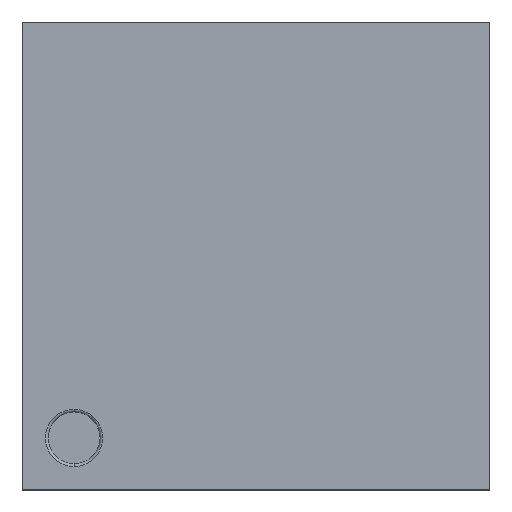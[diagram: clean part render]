
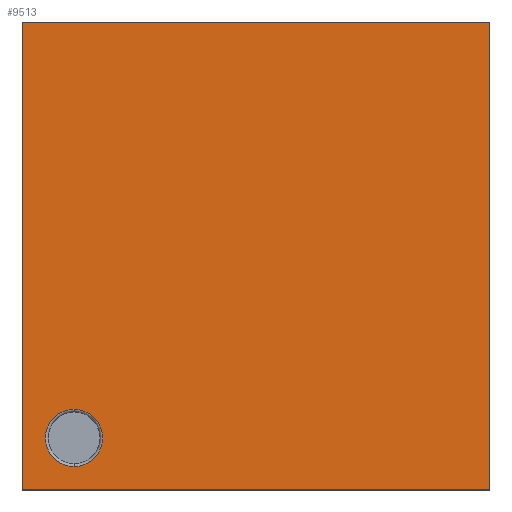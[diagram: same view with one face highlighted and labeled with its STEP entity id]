
A CAD part, top view. The second image highlights one B-rep face of the part: STEP entity #9513.
In plain terms, the highlighted planar face has unit normal (0, 0, 1).
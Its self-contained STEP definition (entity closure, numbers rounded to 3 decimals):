
#9324 = CARTESIAN_POINT ( 'NONE',  ( -3.5, -2.95, 1.23 ) ) ;
#9325 = VERTEX_POINT ( 'NONE', #9324 ) ;
#9326 = CARTESIAN_POINT ( 'NONE',  ( -3.5, -4.05, 1.23 ) ) ;
#9327 = VERTEX_POINT ( 'NONE', #9326 ) ;
#9328 = CARTESIAN_POINT ( 'NONE',  ( -3.5, -3.5, 1.23 ) ) ;
#9329 = DIRECTION ( 'NONE',  ( 0., 0., -1. ) ) ;
#9330 = DIRECTION ( 'NONE',  ( 0., -1., 0. ) ) ;
#9331 = AXIS2_PLACEMENT_3D ( 'NONE', #9328, #9329, #9330 ) ;
#9332 = CIRCLE ( 'NONE', #9331, 0.55) ;
#9333 = EDGE_CURVE ( 'NONE', #9325, #9327, #9332, .T. ) ;
#9378 = CARTESIAN_POINT ( 'NONE',  ( -4.5, -4.5, 1.23 ) ) ;
#9379 = VERTEX_POINT ( 'NONE', #9378 ) ;
#9386 = CARTESIAN_POINT ( 'NONE',  ( -4.5, 4.5, 1.23 ) ) ;
#9387 = VERTEX_POINT ( 'NONE', #9386 ) ;
#9388 = CARTESIAN_POINT ( 'NONE',  ( -4.5, -4.5, 1.23 ) ) ;
#9389 = DIRECTION ( 'NONE',  ( 0., -1., 0. ) ) ;
#9390 = VECTOR ( 'NONE', #9389, 1000. ) ;
#9391 = LINE ( 'NONE', #9388, #9390 ) ;
#9392 = EDGE_CURVE ( 'NONE', #9387, #9379, #9391, .T. ) ;
#9416 = CARTESIAN_POINT ( 'NONE',  ( 4.5, -4.5, 1.23 ) ) ;
#9417 = VERTEX_POINT ( 'NONE', #9416 ) ;
#9424 = CARTESIAN_POINT ( 'NONE',  ( 4.5, -4.5, 1.23 ) ) ;
#9425 = DIRECTION ( 'NONE',  ( 1., 0., 0. ) ) ;
#9426 = VECTOR ( 'NONE', #9425, 1000. ) ;
#9427 = LINE ( 'NONE', #9424, #9426 ) ;
#9428 = EDGE_CURVE ( 'NONE', #9379, #9417, #9427, .T. ) ;
#9447 = CARTESIAN_POINT ( 'NONE',  ( 4.5, 4.5, 1.23 ) ) ;
#9448 = VERTEX_POINT ( 'NONE', #9447 ) ;
#9455 = CARTESIAN_POINT ( 'NONE',  ( 4.5, -4.5, 1.23 ) ) ;
#9456 = DIRECTION ( 'NONE',  ( 0., 1., 0. ) ) ;
#9457 = VECTOR ( 'NONE', #9456, 1000. ) ;
#9458 = LINE ( 'NONE', #9455, #9457 ) ;
#9459 = EDGE_CURVE ( 'NONE', #9417, #9448, #9458, .T. ) ;
#9477 = CARTESIAN_POINT ( 'NONE',  ( 4.5, 4.5, 1.23 ) ) ;
#9478 = DIRECTION ( 'NONE',  ( -1., 0., 0. ) ) ;
#9479 = VECTOR ( 'NONE', #9478, 1000. ) ;
#9480 = LINE ( 'NONE', #9477, #9479 ) ;
#9481 = EDGE_CURVE ( 'NONE', #9448, #9387, #9480, .T. ) ;
#9492 = CARTESIAN_POINT ( 'NONE',  ( -3.5, -3.5, 1.23 ) ) ;
#9493 = DIRECTION ( 'NONE',  ( 0., 0., -1. ) ) ;
#9494 = DIRECTION ( 'NONE',  ( 0., -1., 0. ) ) ;
#9495 = AXIS2_PLACEMENT_3D ( 'NONE', #9492, #9493, #9494 ) ;
#9496 = CIRCLE ( 'NONE', #9495, 0.55) ;
#9497 = EDGE_CURVE ( 'NONE', #9327, #9325, #9496, .T. ) ;
#9498 = ORIENTED_EDGE ( 'NONE', *, *, #9497, .T. ) ;
#9499 = ORIENTED_EDGE ( 'NONE', *, *, #9333, .T. ) ;
#9500 = EDGE_LOOP ( 'NONE', ( #9498, #9499 ) ) ;
#9501 = FACE_BOUND ( 'NONE', #9500, .T. ) ;
#9502 = ORIENTED_EDGE ( 'NONE', *, *, #9392, .T. ) ;
#9503 = ORIENTED_EDGE ( 'NONE', *, *, #9428, .T. ) ;
#9504 = ORIENTED_EDGE ( 'NONE', *, *, #9459, .T. ) ;
#9505 = ORIENTED_EDGE ( 'NONE', *, *, #9481, .T. ) ;
#9506 = EDGE_LOOP ( 'NONE', ( #9502, #9503, #9504, #9505 ) ) ;
#9507 = FACE_OUTER_BOUND ( 'NONE', #9506, .T. ) ;
#9508 = CARTESIAN_POINT ( 'NONE',  ( 0., 0., 1.23 ) ) ;
#9509 = DIRECTION ( 'NONE',  ( 0., 0., 1. ) ) ;
#9510 = DIRECTION ( 'NONE',  ( 0., -1., 0. ) ) ;
#9511 = AXIS2_PLACEMENT_3D ( 'NONE', #9508, #9509, #9510 ) ;
#9512 = PLANE ( 'NONE', #9511 ) ;
#9513 = ADVANCED_FACE ( 'NONE', ( #9501, #9507 ), #9512, .T. ) ;
